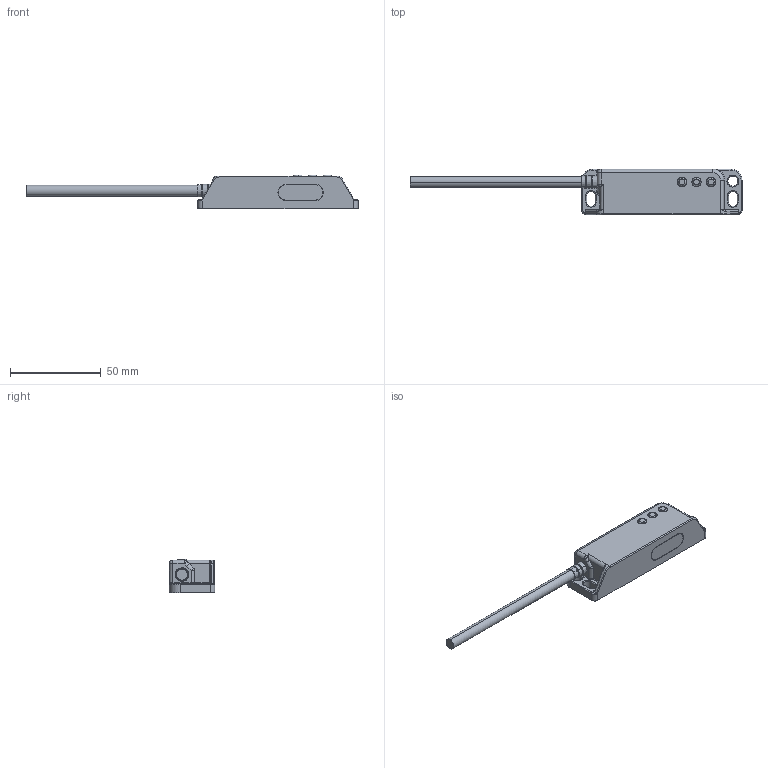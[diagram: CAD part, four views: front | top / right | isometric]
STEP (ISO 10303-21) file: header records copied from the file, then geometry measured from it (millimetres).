
FILE_DESCRIPTION (( 'STEP AP203' ), '1' );
FILE_NAME ('412-LMZ Switch (STEP Format).STEP', '2019-04-17T11:30:55', ( '' ), ( '' ), 'SwSTEP 2.0', 'SolidWorks 2018', '' );
FILE_SCHEMA (( 'CONFIG_CONTROL_DESIGN' ));
Length unit declared in the file: millimetre
Products named in the file (1): 412-LMZ Switch (STEP Format)
Bounding box: 182.5 x 25 x 18.5 mm (x, y, z)
Volume: 17126.9 mm3; surface area: 18516.8 mm2
Topology: 10 solids, 10 shells, 874 faces, 2085 edges, 1265 vertices
Faces by surface type: plane 320, cylinder 255, torus 157, bspline 91, cone 32, sphere 19
Entity records: 29338 total; most frequent: CARTESIAN_POINT 9301, DIRECTION 4215, ORIENTED_EDGE 4100, EDGE_CURVE 2050, AXIS2_PLACEMENT_3D 1584, VERTEX_POINT 1259, LINE 1047, VECTOR 1047
